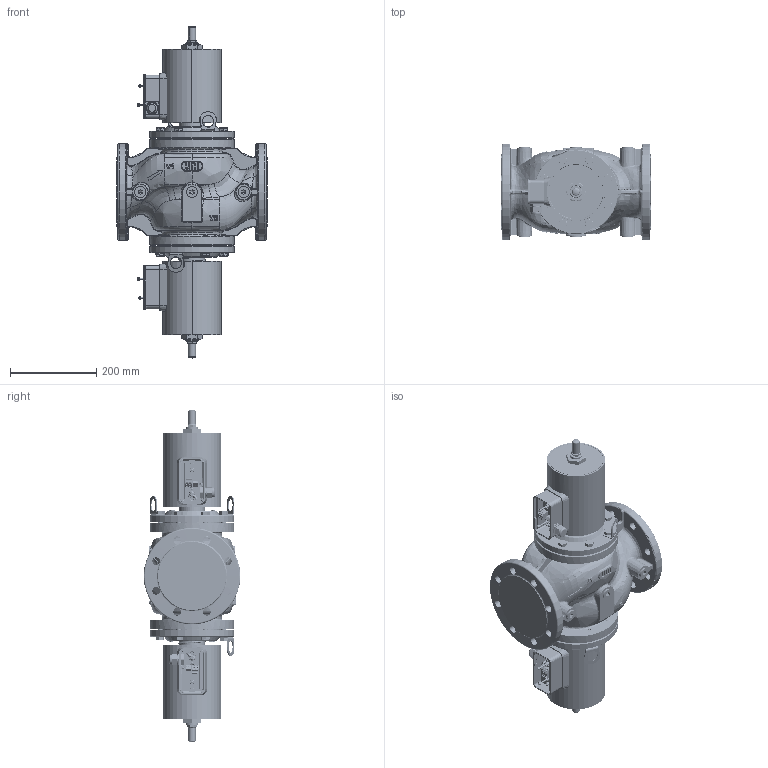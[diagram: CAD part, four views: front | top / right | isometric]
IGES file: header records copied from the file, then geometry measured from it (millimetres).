
Global section: file name: No Iges File Name specified; native system: AutoDesk Inventor R12.0; preprocessor: AutoDesk Inventor Iges Exporter R12.0; date: 20110606.140234; units: millimetre
Bounding box: 350 x 224 x 770.01 mm (x, y, z)
Volume: 16329850 mm3; surface area: 1362211.8 mm2
Topology: 1 solids, 1 shells, 5034 faces, 13405 edges, 8586 vertices
Faces by surface type: plane 2275, bspline 1145, revolution 544, cylinder 456, cone 414, torus 188, sphere 12
